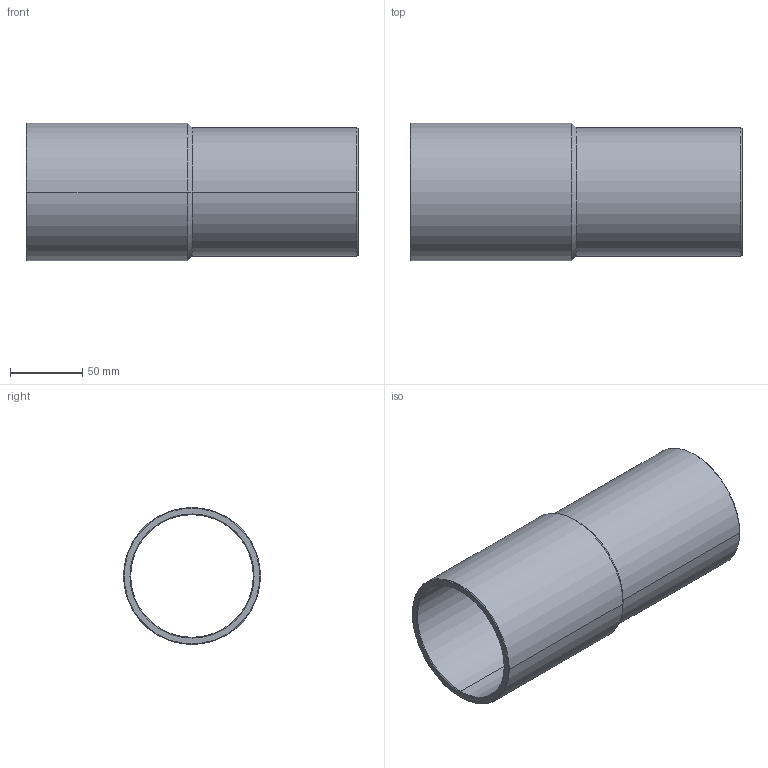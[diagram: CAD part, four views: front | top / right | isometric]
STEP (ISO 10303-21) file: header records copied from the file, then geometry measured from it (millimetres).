
FILE_DESCRIPTION(('CoCreate Modeling STEP Export'),'2;1');
FILE_NAME('C1432 95x88.9.stp','2014-11-12T16:23:08',(''),(''),'CoCreate Modeling STEP processor for AP214 (Solid Model)','CoCreate Modeling 17.00A 17-Jun-2010 (C) Parametric Technology GmbH','');
FILE_SCHEMA(('AUTOMOTIVE_DESIGN { 1 0 10303 214 1 1 1 1 }'));
Length unit declared in the file: millimetre
Products named in the file (1): 620654.1
Bounding box: 230 x 95 x 95 mm (x, y, z)
Volume: 222282.4 mm3; surface area: 129765 mm2
Topology: 1 solids, 1 shells, 18 faces, 42 edges, 26 vertices
Faces by surface type: cone 10, cylinder 6, plane 2
Entity records: 430 total; most frequent: ORIENTED_EDGE 84, CARTESIAN_POINT 63, DIRECTION 58, EDGE_CURVE 42, VERTEX_POINT 26, AXIS2_PLACEMENT_3D 21, EDGE_LOOP 20, FACE_OUTER_BOUND 18
